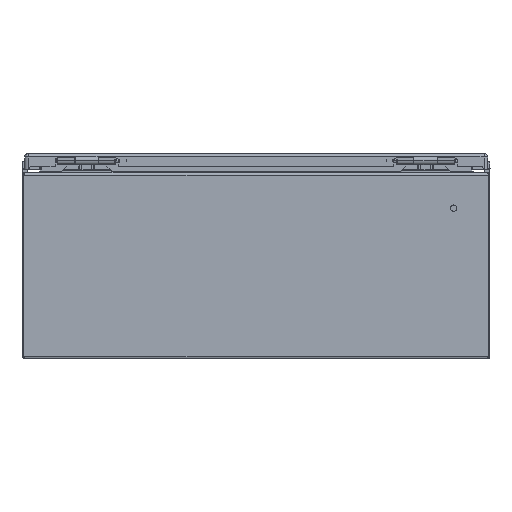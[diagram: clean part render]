
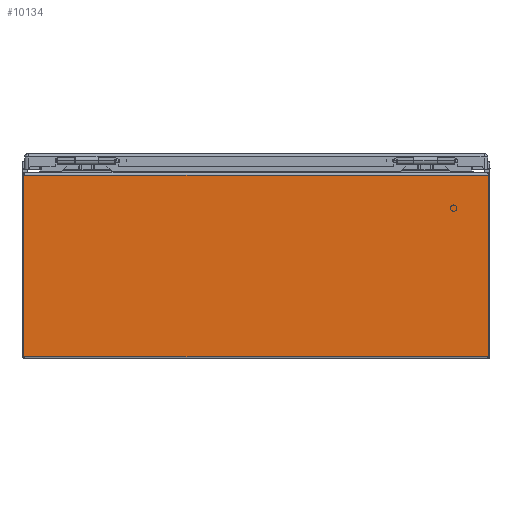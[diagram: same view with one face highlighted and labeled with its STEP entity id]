
A CAD part, left-side view. The second image highlights one B-rep face of the part: STEP entity #10134.
In plain terms, the highlighted planar face has unit normal (-1, 0, 0).
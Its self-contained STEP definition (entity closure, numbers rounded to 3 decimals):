
#117 = EDGE_LOOP ( 'NONE', ( #3723, #3721, #3679, #3763 ) ) ;
#1680 = CARTESIAN_POINT ( 'NONE',  ( -10., -9.947, 0.097 ) ) ;
#1702 = CARTESIAN_POINT ( 'NONE',  ( -10., 9.947, 0.097 ) ) ;
#1785 = CARTESIAN_POINT ( 'NONE',  ( -10., 9.947, 7.859 ) ) ;
#2579 = CARTESIAN_POINT ( 'NONE',  ( -10., -9.947, 7.859 ) ) ;
#3679 = ORIENTED_EDGE ( 'NONE', *, *, #36253, .T. ) ;
#3721 = ORIENTED_EDGE ( 'NONE', *, *, #36314, .F. ) ;
#3723 = ORIENTED_EDGE ( 'NONE', *, *, #36297, .T. ) ;
#3763 = ORIENTED_EDGE ( 'NONE', *, *, #36319, .T. ) ;
#6945 = DIRECTION ( 'NONE',  ( 0., -1., 0. ) ) ;
#6947 = CARTESIAN_POINT ( 'NONE',  ( -10., 110., 0.097 ) ) ;
#6961 = DIRECTION ( 'NONE',  ( 0., -1., 0. ) ) ;
#6963 = CARTESIAN_POINT ( 'NONE',  ( -10., 110., 7.859 ) ) ;
#7001 = DIRECTION ( 'NONE',  ( 0., 0., 1. ) ) ;
#7008 = CARTESIAN_POINT ( 'NONE',  ( -10., -9.947, 7.859 ) ) ;
#7087 = DIRECTION ( 'NONE',  ( 0., 0., -1. ) ) ;
#7091 = CARTESIAN_POINT ( 'NONE',  ( -10., 9.947, 7.859 ) ) ;
#10134 = ADVANCED_FACE ( 'NONE', ( #45506 ), #13314, .T. ) ;
#10895 = VECTOR ( 'NONE', #7087, 39.37 ) ;
#10900 = LINE ( 'NONE', #7091, #10895 ) ;
#10955 = VECTOR ( 'NONE', #7001, 39.37 ) ;
#10964 = LINE ( 'NONE', #7008, #10955 ) ;
#10980 = VECTOR ( 'NONE', #6945, 39.37 ) ;
#10983 = VECTOR ( 'NONE', #6961, 39.37 ) ;
#10988 = LINE ( 'NONE', #6963, #10983 ) ;
#10993 = LINE ( 'NONE', #6947, #10980 ) ;
#13301 = DIRECTION ( 'NONE',  ( 0., 0., -1. ) ) ;
#13303 = DIRECTION ( 'NONE',  ( -1., 0., 0. ) ) ;
#13314 = PLANE ( 'NONE',  #42208 ) ;
#13323 = CARTESIAN_POINT ( 'NONE',  ( -10., 110., 7.859 ) ) ;
#36253 = EDGE_CURVE ( 'NONE', #40676, #40611, #10900, .T. ) ;
#36297 = EDGE_CURVE ( 'NONE', #40621, #40139, #10964, .T. ) ;
#36314 = EDGE_CURVE ( 'NONE', #40676, #40139, #10988, .T. ) ;
#36319 = EDGE_CURVE ( 'NONE', #40611, #40621, #10993, .T. ) ;
#40139 = VERTEX_POINT ( 'NONE', #2579 ) ;
#40611 = VERTEX_POINT ( 'NONE', #1702 ) ;
#40621 = VERTEX_POINT ( 'NONE', #1680 ) ;
#40676 = VERTEX_POINT ( 'NONE', #1785 ) ;
#42208 = AXIS2_PLACEMENT_3D ( 'NONE', #13323, #13303, #13301 ) ;
#45506 = FACE_OUTER_BOUND ( 'NONE', #117, .T. ) ;
